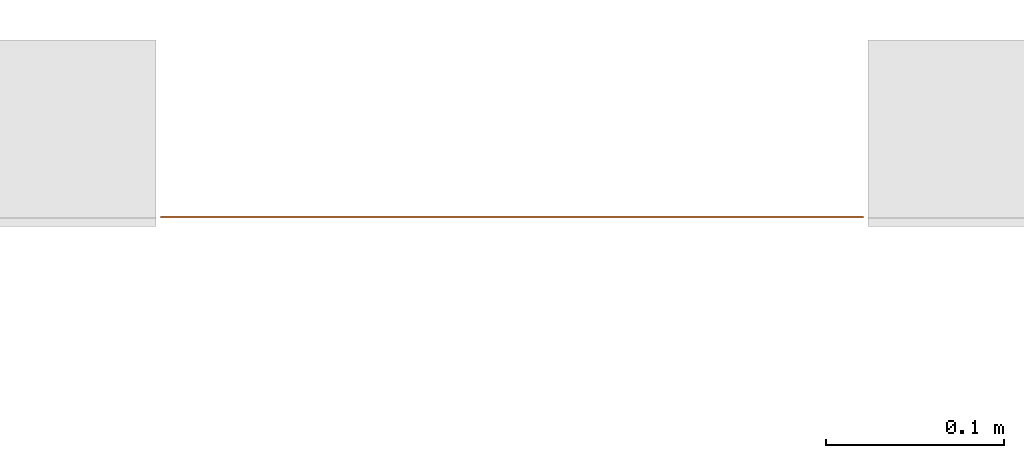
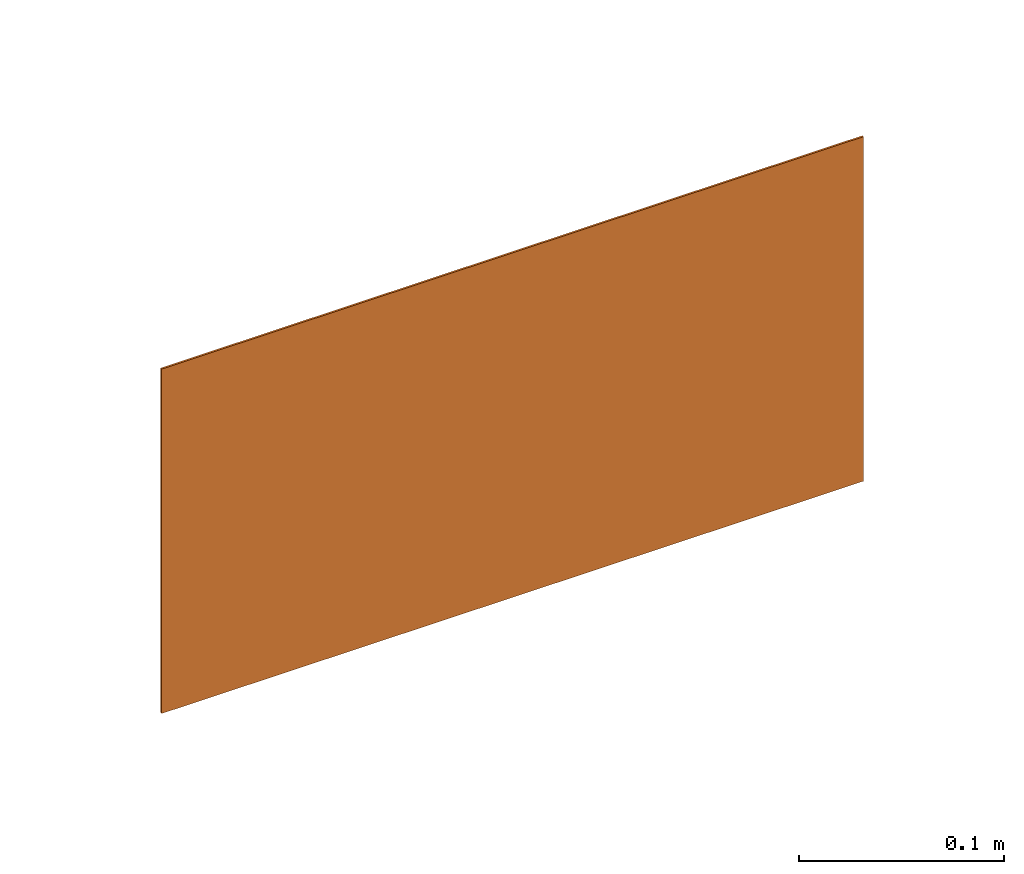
# One storey, part 32 of 119: 1 proxy.
"""IFC2X3 building model written with IfcOpenShell, lengths in metres."""

from ifc_helpers import new_model, entity, si_unit, converted_unit, derived_unit, direction, frame, frame_2d, origin, origin_2d_with_axis, place, context, subcontext, project, spatial, polyline, circle_curve, parameter, trimmed, segment, composite_curve, rectangle, outline, extrude, source, transform, mapped, material, material_list, type_object, type_shapes, element, save


model = new_model("IFC2X3")

# Units and contexts
model_context = context("Model", 3, precision=1e-05, world=origin(), true_north=direction((6.12303176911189e-17, 1.0)))
body_context = subcontext(model_context, "Body", "Model", "MODEL_VIEW")
ifc_project = project(units=[si_unit("LENGTHUNIT", "METRE"), si_unit("AREAUNIT", "SQUARE_METRE"), si_unit("VOLUMEUNIT", "CUBIC_METRE"), converted_unit("PLANEANGLEUNIT", "DEGREE", entity("IfcRatioMeasure", 0.0174532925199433), si_unit("PLANEANGLEUNIT", "RADIAN"), dimensions=[0, 0, 0, 0, 0, 0, 0]), si_unit("MASSUNIT", "GRAM", prefix="KILO"), derived_unit("MASSDENSITYUNIT", [(si_unit("MASSUNIT", "GRAM", prefix="KILO"), 1), (si_unit("LENGTHUNIT", "METRE"), -3)]), derived_unit("MOMENTOFINERTIAUNIT", [(si_unit("LENGTHUNIT", "METRE"), 4)]), si_unit("TIMEUNIT", "SECOND"), si_unit("FREQUENCYUNIT", "HERTZ"), si_unit("THERMODYNAMICTEMPERATUREUNIT", "DEGREE_CELSIUS"), derived_unit("THERMALTRANSMITTANCEUNIT", [(si_unit("MASSUNIT", "GRAM", prefix="KILO"), 1), (si_unit("THERMODYNAMICTEMPERATUREUNIT", "KELVIN"), -1), (si_unit("TIMEUNIT", "SECOND"), -3)]), derived_unit("VOLUMETRICFLOWRATEUNIT", [(si_unit("LENGTHUNIT", "METRE"), 3), (si_unit("TIMEUNIT", "SECOND"), -1)]), si_unit("ELECTRICCURRENTUNIT", "AMPERE"), si_unit("ELECTRICVOLTAGEUNIT", "VOLT"), si_unit("POWERUNIT", "WATT"), si_unit("FORCEUNIT", "NEWTON", prefix="KILO"), si_unit("ILLUMINANCEUNIT", "LUX"), si_unit("LUMINOUSFLUXUNIT", "LUMEN"), si_unit("LUMINOUSINTENSITYUNIT", "CANDELA"), derived_unit("USERDEFINED", [(si_unit("MASSUNIT", "GRAM", prefix="KILO"), -1), (si_unit("LENGTHUNIT", "METRE"), -2), (si_unit("TIMEUNIT", "SECOND"), 3), (si_unit("LUMINOUSFLUXUNIT", "LUMEN"), 1)]), derived_unit("LINEARVELOCITYUNIT", [(si_unit("LENGTHUNIT", "METRE"), 1), (si_unit("TIMEUNIT", "SECOND"), -1)]), si_unit("PRESSUREUNIT", "PASCAL"), derived_unit("USERDEFINED", [(si_unit("LENGTHUNIT", "METRE"), -2), (si_unit("MASSUNIT", "GRAM", prefix="KILO"), 1), (si_unit("TIMEUNIT", "SECOND"), -2)]), derived_unit("LINEARFORCEUNIT", [(si_unit("MASSUNIT", "GRAM", prefix="KILO"), 1), (si_unit("LENGTHUNIT", "METRE"), 1), (si_unit("TIMEUNIT", "SECOND"), -2), (si_unit("LENGTHUNIT", "METRE"), -1)]), derived_unit("PLANARFORCEUNIT", [(si_unit("MASSUNIT", "GRAM", prefix="KILO"), 1), (si_unit("LENGTHUNIT", "METRE"), 1), (si_unit("TIMEUNIT", "SECOND"), -2), (si_unit("LENGTHUNIT", "METRE"), -2)])], contexts=[model_context])

# Site, building, storey
site_placement = place(None, origin())
site = spatial("IfcSite", under=ifc_project, at=site_placement, Name="Default", CompositionType="ELEMENT")
building_placement = place(site_placement, origin())
building = spatial("IfcBuilding", under=site, at=building_placement, CompositionType="ELEMENT")
storey_placement = place(building_placement, origin())
storey = spatial("IfcBuildingStorey", under=building, at=storey_placement, Name="PAV. 01 - TÉRREO", CompositionType="ELEMENT", Elevation=0.0)

# Proxy
ifc_material_1 = material(Name="Plastico branco")
ifc_material_2 = material(Name="Plastico Verde")
ifc_material_list = material_list([ifc_material_1, ifc_material_2])
building_element_proxy_type = type_object("IfcBuildingElementProxyType", Name="Sinalização de orientação - S01 - Indicação do sentido da saída de emergência direita:Distância 12m", PredefinedType="NOTDEFINED", material=ifc_material_1)
shared_shape = source(origin(), body_context, "Body", "SweptSolid", [
    extrude(outline(polyline([(0.0124622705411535, 0.0340163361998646), (0.0116069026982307, 0.0335634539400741), (0.0110082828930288, 0.0323153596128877), (0.0106205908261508, 0.0304379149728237), (0.0103980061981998, 0.0280969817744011), (0.0102947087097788, 0.0254584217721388), (0.0102359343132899, 0.0148408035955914), (0.0100952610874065, 0.0101688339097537), (0.00995272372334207, 0.00797089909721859), (0.00974625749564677, 0.00585117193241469), (0.00946401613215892, 0.00379928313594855), (0.00909414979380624, 0.0018048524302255), (0.00861827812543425, -0.000162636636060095), (0.00799797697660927, -0.00219550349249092), (0.00719098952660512, -0.00439788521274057), (0.00615505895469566, -0.0068739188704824), (0.00484792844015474, -0.00972774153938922), (0.00322734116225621, -0.0130634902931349), (-0.00393772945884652, -0.0270036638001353), (0.00911414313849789, -0.0269659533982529), (0.00975353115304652, -0.0269418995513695), (0.0101589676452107, -0.0269097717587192), (0.0104072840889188, -0.0268684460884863), (0.0105753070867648, -0.026816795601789), (0.0107283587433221, -0.0267465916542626), (0.0108956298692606, -0.0266273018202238), (0.0110992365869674, -0.0264240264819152), (0.0113612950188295, -0.02610186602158), (0.0117039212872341, -0.02562592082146), (0.0121492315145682, -0.0249612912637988), (0.0134363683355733, -0.022926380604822), (0.0220622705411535, -0.00866366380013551), (0.0231418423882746, -0.00739752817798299), (0.024244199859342, -0.00641124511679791), (0.0253551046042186, -0.00568750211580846), (0.026460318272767, -0.0052089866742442), (0.0275456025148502, -0.00495838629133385), (0.0285967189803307, -0.00491838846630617), (0.0295994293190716, -0.00507168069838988), (0.0305394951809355, -0.00540095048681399), (0.0314026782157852, -0.00588888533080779), (0.0321747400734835, -0.00651817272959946), (0.0328414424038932, -0.0072715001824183), (0.033388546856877, -0.00813155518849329), (0.0338018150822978, -0.00908102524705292), (0.0340670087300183, -0.0101025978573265), (0.0341698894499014, -0.0111789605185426), (0.0340962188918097, -0.0122928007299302), (0.0338317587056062, -0.0134268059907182), (0.0333622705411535, -0.0145636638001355), (0.027258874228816, -0.0250738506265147), (0.0231922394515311, -0.0317577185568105), (0.020455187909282, -0.0355759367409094), (0.0183405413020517, -0.0374891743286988), (0.0161486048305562, -0.0384492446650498), (0.0134863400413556, -0.0390450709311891), (0.0103684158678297, -0.0393831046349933), (0.00683771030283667, -0.0395364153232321), (-0.0223273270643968, -0.0395794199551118), (-0.0254276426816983, -0.0395207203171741), (-0.0281392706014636, -0.0392326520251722), (-0.0306250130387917, -0.0385308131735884), (-0.0330476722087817, -0.0372308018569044), (-0.0355700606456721, -0.0351482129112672), (-0.0383972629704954, -0.0320852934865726), (-0.0418729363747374, -0.0278005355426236), (-0.0522577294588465, -0.0145636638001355), (-0.0701177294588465, -0.0145636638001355), (-0.0701177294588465, -0.0855036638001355), (0.0426422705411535, -0.0855036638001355), (0.0426422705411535, 0.0290963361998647), (0.0481022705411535, 0.0290963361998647), (0.0680622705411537, 0.0537563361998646), (0.0426422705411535, 0.0537563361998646), (0.0426422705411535, 0.0764363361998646), (0.0551222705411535, 0.0891363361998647), (-0.0240977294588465, 0.0891363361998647), (-0.0371577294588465, 0.0764363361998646), (-0.0542977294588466, 0.0764363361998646), (-0.039344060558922, 0.0891363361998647), (-0.0579777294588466, 0.0891363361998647), (-0.0701177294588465, 0.0764363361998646), (-0.0701177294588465, -0.00182366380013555), (-0.0500921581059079, -0.00182052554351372), (-0.048376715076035, -0.00187323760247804), (-0.0469973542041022, -0.00203451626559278), (-0.0458400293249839, -0.00235707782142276), (-0.0447906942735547, -0.00289363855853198), (-0.0437353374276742, -0.0036968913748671), (-0.0425823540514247, -0.00480435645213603), (-0.0413011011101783, -0.00621227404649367), (-0.0398712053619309, -0.00790993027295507), (-0.0322577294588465, -0.0173836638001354), (-0.0217377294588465, 0.00417633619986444), (-0.0542977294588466, 0.0709363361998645), (-0.0371577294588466, 0.0709363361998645), (-0.00639772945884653, 0.0127763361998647), (-0.00393772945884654, 0.0340163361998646), (-0.00373167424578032, 0.0366224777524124), (-0.00346846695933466, 0.0389264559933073), (-0.00310194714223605, 0.0409426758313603), (-0.00258595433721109, 0.0426855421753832), (-0.00187432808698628, 0.0441694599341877), (-0.000920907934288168, 0.0454088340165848), (0.000320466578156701, 0.0464180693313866), (0.00189595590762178, 0.0472115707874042), (0.00385172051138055, 0.0478037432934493), (0.00623392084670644, 0.0482089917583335), (0.00908871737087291, 0.0484417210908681), (0.0124622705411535, 0.0485163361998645), (0.0551222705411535, 0.0485163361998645), (0.0426422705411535, 0.0340163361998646), (0.0124622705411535, 0.0340163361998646)]), holes=[composite_curve([segment(trimmed(circle_curve(frame_2d((-0.0288977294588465, -0.0559436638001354), x_axis=(-1.0, 0.0)), 0.0134), [parameter(180.0)], [parameter(360.0)], True, "PARAMETER"), False, "CONTINUOUS"), segment(trimmed(circle_curve(frame_2d((-0.0288977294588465, -0.0559436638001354), x_axis=(-1.0, 0.0)), 0.0134), [parameter(2.03555499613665e-13)], [parameter(180.0)], True, "PARAMETER"), False, "CONTINUOUS")], self_intersect=False)]), frame((-0.112957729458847, -0.00110000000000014, 1.90431633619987), z_axis=(0.0, -1.0, 0.0), x_axis=(-1.0, 0.0, 0.0)), (0.0, 0.0, -1.0), 0.0011),
    extrude(outline(polyline([(-0.102500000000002, -0.197500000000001), (0.102500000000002, -0.197500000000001), (0.102500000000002, 0.197500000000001), (-0.102500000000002, 0.197500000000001), (-0.102500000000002, -0.197500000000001)]), holes=[polyline([(-0.0950000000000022, -0.190000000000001), (-0.0950000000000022, 0.189999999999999), (0.0949999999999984, 0.189999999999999), (0.0949999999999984, -0.190000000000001), (-0.0950000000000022, -0.190000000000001)])]), frame((0.0, -0.0011, 1.9025), z_axis=(0.0, 1.0, 0.0), x_axis=(0.0, 0.0, -1.0)), (0.0, 0.0, 1.0), 0.0011),
    extrude(rectangle(XDim=0.001, YDim=0.38, at=origin_2d_with_axis()), frame((0.0, -0.0005, 1.8075), z_axis=(0.0, 0.0, 1.0), x_axis=(0.0, 1.0, 0.0)), (0.0, 0.0, 1.0), 0.190000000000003),
    extrude(outline(polyline([(-0.0165808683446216, -0.0648778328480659), (0.0648778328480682, -0.0648778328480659), (0.0648778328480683, 0.016580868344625), (0.0289709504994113, 0.0524877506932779), (0.0289709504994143, -0.00190290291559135), (-0.0467319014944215, 0.073799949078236), (-0.0737999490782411, 0.0467319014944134), (0.00190290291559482, -0.0289709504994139), (-0.0524877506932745, -0.028970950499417), (-0.0165808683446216, -0.0648778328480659)])), frame((0.0852288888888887, -0.0011, 1.9025), z_axis=(0.0, 1.0, 0.0), x_axis=(0.707106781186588, 0.0, -0.707106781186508)), (0.0, 0.0, 1.0), 0.0011),
])
type_shapes(building_element_proxy_type, [shared_shape])
proxy_placement = place(storey_placement, frame((6.17387515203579, 14.2286668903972, 0.0), z_axis=(0.0, 0.0, 1.0), x_axis=(-1.0, 0.0, 0.0)))
element("IfcBuildingElementProxy", 1, at=proxy_placement, inside=storey, type_object=building_element_proxy_type, material=ifc_material_list, Name="Sinalização de orientação - S01 - Indicação do sentido da saída de emergência direita:Distância 12m", ObjectType="Sinalização de orientação - S01 - Indicação do sentido da saída de emergência direita:Distância 12m", context=body_context, shape_type="MappedRepresentation", body=[
    mapped(shared_shape, transform((0.0, 0.0, 0.0), scale=1.0)),
])

save(model, "model.ifc")
